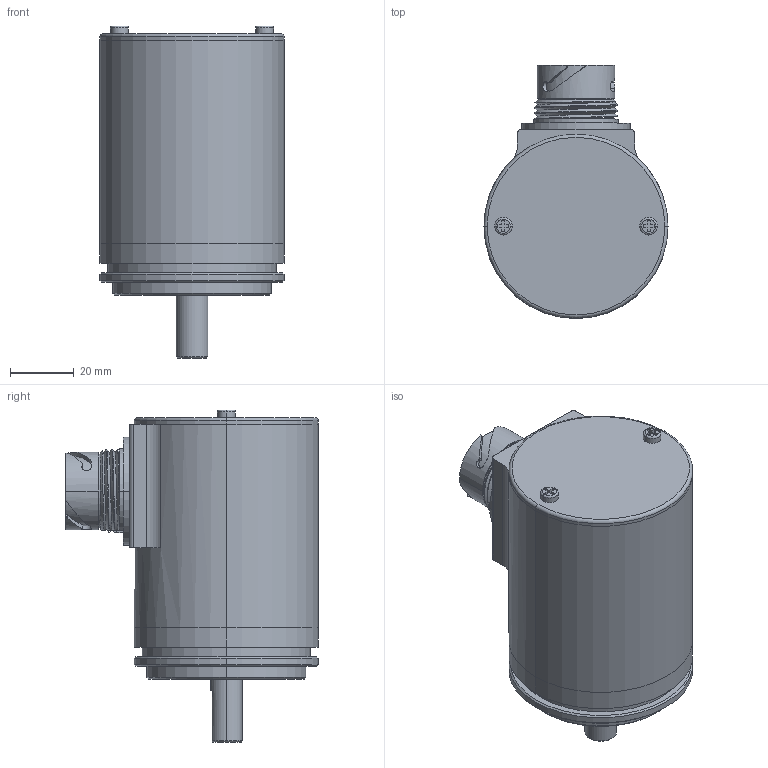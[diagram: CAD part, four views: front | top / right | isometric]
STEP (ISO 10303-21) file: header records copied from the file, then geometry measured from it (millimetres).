
FILE_DESCRIPTION (( 'STEP AP203' ), '1' );
FILE_NAME ('MR332-Y10D00.STEP', '2013-07-29T16:53:59', ( '' ), ( '' ), 'SwSTEP 2.0', 'SolidWorks 2013', '' );
FILE_SCHEMA (( 'CONFIG_CONTROL_DESIGN' ));
Length unit declared in the file: inch
Products named in the file (1): MR332-Y10D00
Bounding box: 57.94 x 79.58 x 104.49 mm (x, y, z)
Surface area: 27500.1 mm2 (no closed solid volume)
Topology: 0 solids, 10 shells, 234 faces, 721 edges, 504 vertices
Faces by surface type: plane 112, cylinder 70, bspline 22, cone 20, torus 10
Entity records: 11191 total; most frequent: CARTESIAN_POINT 4960, ORIENTED_EDGE 1246, DIRECTION 1191, EDGE_CURVE 721, VERTEX_POINT 504, LINE 401, VECTOR 401, AXIS2_PLACEMENT_3D 395
